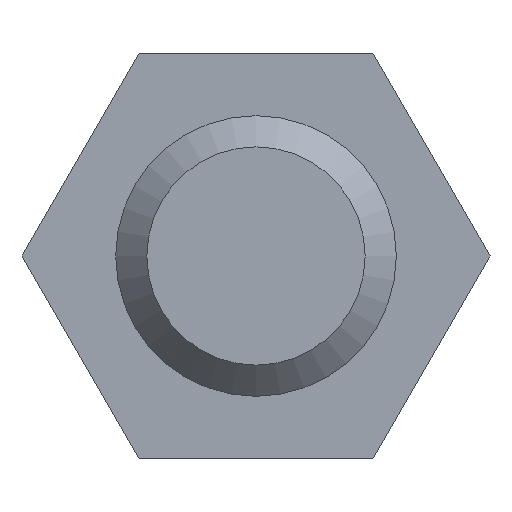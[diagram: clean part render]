
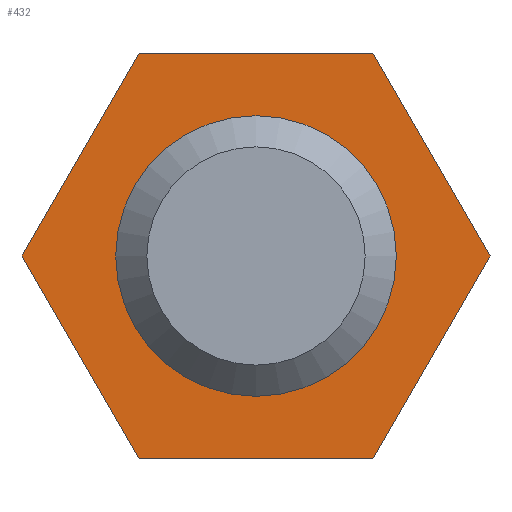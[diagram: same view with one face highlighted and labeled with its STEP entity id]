
A CAD part, left-side view. The second image highlights one B-rep face of the part: STEP entity #432.
In plain terms, the highlighted planar face has unit normal (-1, 0, 0).
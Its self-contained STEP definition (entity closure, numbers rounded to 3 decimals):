
#198=CARTESIAN_POINT('',(17.5,-7.506,0.));
#199=VERTEX_POINT('',#198);
#206=CARTESIAN_POINT('',(17.5,-3.753,-6.5));
#207=VERTEX_POINT('',#206);
#208=CARTESIAN_POINT('',(17.5,-3.753,-6.5));
#209=DIRECTION('',(0.0,-0.5,0.866));
#210=VECTOR('',#209,7.506);
#211=LINE('',#208,#210);
#212=EDGE_CURVE('',#207,#199,#211,.T.);
#229=CARTESIAN_POINT('',(17.5,-3.753,6.5));
#230=VERTEX_POINT('',#229);
#237=CARTESIAN_POINT('',(17.5,-7.506,0.));
#238=DIRECTION('',(0.0,0.5,0.866));
#239=VECTOR('',#238,7.506);
#240=LINE('',#237,#239);
#241=EDGE_CURVE('',#199,#230,#240,.T.);
#253=CARTESIAN_POINT('',(17.5,3.753,6.5));
#254=VERTEX_POINT('',#253);
#261=CARTESIAN_POINT('',(17.5,-3.753,6.5));
#262=DIRECTION('',(0.0,1.0,0.0));
#263=VECTOR('',#262,7.506);
#264=LINE('',#261,#263);
#265=EDGE_CURVE('',#230,#254,#264,.T.);
#277=CARTESIAN_POINT('',(17.5,7.506,0.));
#278=VERTEX_POINT('',#277);
#285=CARTESIAN_POINT('',(17.5,3.753,6.5));
#286=DIRECTION('',(0.0,0.5,-0.866));
#287=VECTOR('',#286,7.506);
#288=LINE('',#285,#287);
#289=EDGE_CURVE('',#254,#278,#288,.T.);
#301=CARTESIAN_POINT('',(17.5,3.753,-6.5));
#302=VERTEX_POINT('',#301);
#309=CARTESIAN_POINT('',(17.5,7.506,0.));
#310=DIRECTION('',(0.0,-0.5,-0.866));
#311=VECTOR('',#310,7.506);
#312=LINE('',#309,#311);
#313=EDGE_CURVE('',#278,#302,#312,.T.);
#326=CARTESIAN_POINT('',(17.5,3.753,-6.5));
#327=DIRECTION('',(0.0,-1.0,0.0));
#328=VECTOR('',#327,7.506);
#329=LINE('',#326,#328);
#330=EDGE_CURVE('',#302,#207,#329,.T.);
#401=CARTESIAN_POINT('',(17.5,4.5,0.0));
#402=VERTEX_POINT('',#401);
#403=CARTESIAN_POINT('',(17.5,0.0,0.0));
#404=DIRECTION('',(1.0,0.0,0.0));
#405=DIRECTION('',(0.0,1.0,0.0));
#406=AXIS2_PLACEMENT_3D('',#403,#404,#405);
#407=CIRCLE('',#406,4.5);
#408=EDGE_CURVE('',#402,#402,#407,.T.);
#416=CARTESIAN_POINT('',(17.5,4.75,0.0));
#417=DIRECTION('',(-1.0,0.0,0.0));
#418=DIRECTION('',(0.0,0.0,1.0));
#419=AXIS2_PLACEMENT_3D('',#416,#417,#418);
#420=PLANE('',#419);
#421=ORIENTED_EDGE('',*,*,#330,.T.);
#422=ORIENTED_EDGE('',*,*,#212,.T.);
#423=ORIENTED_EDGE('',*,*,#241,.T.);
#424=ORIENTED_EDGE('',*,*,#265,.T.);
#425=ORIENTED_EDGE('',*,*,#289,.T.);
#426=ORIENTED_EDGE('',*,*,#313,.T.);
#427=EDGE_LOOP('',(#421,#422,#423,#424,#425,#426));
#428=FACE_OUTER_BOUND('',#427,.T.);
#429=ORIENTED_EDGE('',*,*,#408,.T.);
#430=EDGE_LOOP('',(#429));
#431=FACE_BOUND('',#430,.T.);
#432=ADVANCED_FACE('',(#428,#431),#420,.T.);
